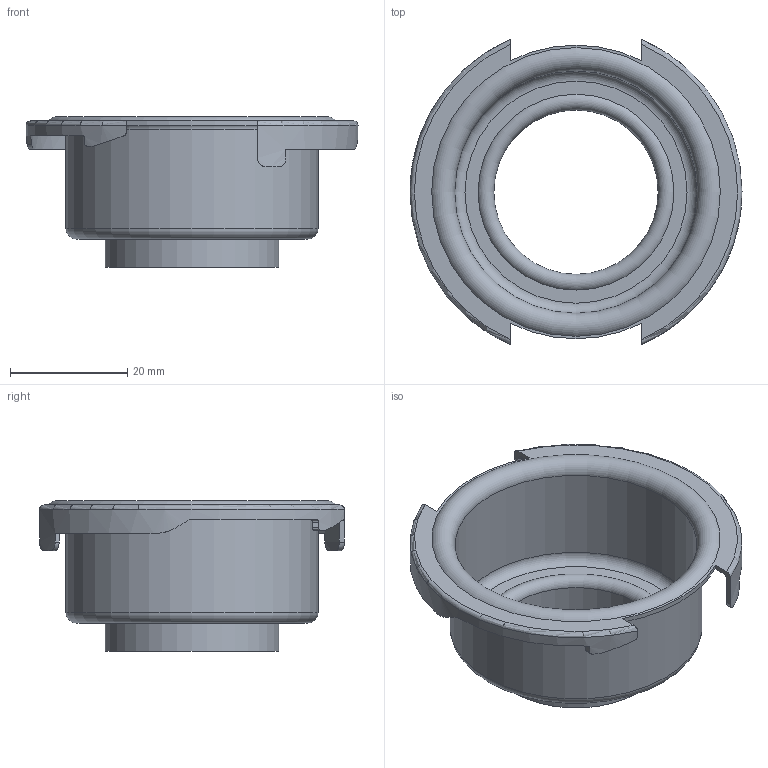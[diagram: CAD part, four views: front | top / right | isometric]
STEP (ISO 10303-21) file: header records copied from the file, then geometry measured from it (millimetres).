
FILE_DESCRIPTION(/* description */ ('203 SS Shell'),/* implementation_level */ '2;1');
FILE_NAME(/* name */ '205-SS.step',/* time_stamp */ '2026-05-08T10:03:28-05:00',/* author */ (''),/* organization */ (''),/* preprocessor_version */ 'ST-DEVELOPER v20.1',/* originating_system */ 'Autodesk Translation Framework v15.8.0.0',/* authorisation */ '');
FILE_SCHEMA (('AUTOMOTIVE_DESIGN { 1 0 10303 214 3 1 1 }'));
Length unit declared in the file: millimetre
Products named in the file (1): 205-SS
Bounding box: 56.58 x 51.98 x 25.7 mm (x, y, z)
Volume: 4234.8 mm3; surface area: 10400.1 mm2
Topology: 1 solids, 1 shells, 59 faces, 156 edges, 102 vertices
Faces by surface type: plane 25, cylinder 22, torus 10, bspline 2
Full cylindrical faces by diameter (mm): 28 x1, 29.626 x1, 41.34 x1, 42.966 x1
Entity records: 2227 total; most frequent: CARTESIAN_POINT 756, ORIENTED_EDGE 312, DIRECTION 288, EDGE_CURVE 156, AXIS2_PLACEMENT_3D 114, VERTEX_POINT 102, EDGE_LOOP 64, LINE 60
